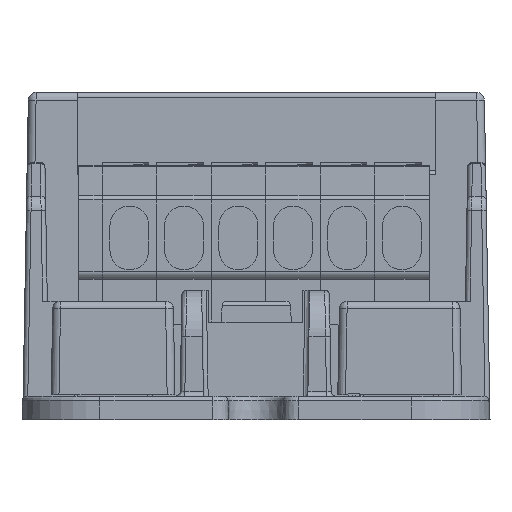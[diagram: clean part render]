
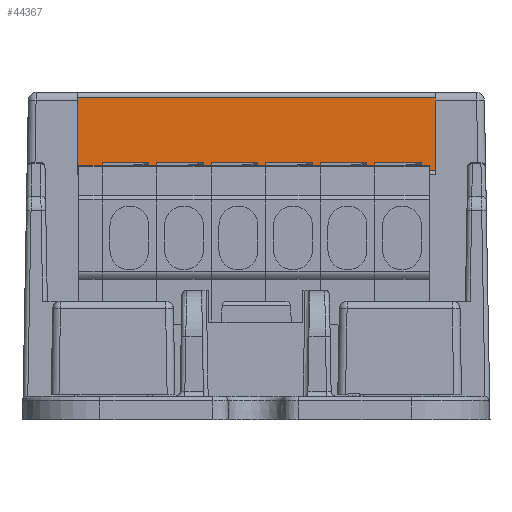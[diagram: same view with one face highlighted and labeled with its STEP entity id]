
A CAD part, left-side view. The second image highlights one B-rep face of the part: STEP entity #44367.
In plain terms, the highlighted planar face has unit normal (-1, 0, 0.018).
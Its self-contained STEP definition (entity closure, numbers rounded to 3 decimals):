
#3013=PLANE($,#47385);
#5148=FACE_OUTER_BOUND($,#7649,.T.);
#7649=EDGE_LOOP($,(#32614,#32615,#32616,#32617));
#11835=LINE($,#66075,#16797);
#11837=LINE($,#66082,#16799);
#11839=LINE($,#66087,#16801);
#11840=LINE($,#66088,#16802);
#16797=VECTOR($,#52193,23.);
#16799=VECTOR($,#52199,23.);
#16801=VECTOR($,#52205,4.706);
#16802=VECTOR($,#52206,4.706);
#22035=VERTEX_POINT($,#66072);
#22036=VERTEX_POINT($,#66074);
#22038=VERTEX_POINT($,#66079);
#22039=VERTEX_POINT($,#66081);
#26285=EDGE_CURVE($,#22036,#22035,#11835,.F.);
#26288=EDGE_CURVE($,#22038,#22039,#11837,.T.);
#26291=EDGE_CURVE($,#22038,#22036,#11839,.T.);
#26292=EDGE_CURVE($,#22039,#22035,#11840,.F.);
#32614=ORIENTED_EDGE($,*,*,#26288,.F.);
#32615=ORIENTED_EDGE($,*,*,#26291,.T.);
#32616=ORIENTED_EDGE($,*,*,#26285,.T.);
#32617=ORIENTED_EDGE($,*,*,#26292,.F.);
#44367=ADVANCED_FACE($,(#5148),#3013,.F.);
#47385=AXIS2_PLACEMENT_3D($,#66086,#52203,#52204);
#52193=DIRECTION($,(0.,1.,0.));
#52199=DIRECTION($,(0.,-1.,0.));
#52203=DIRECTION('center_axis',(1.,0.,-0.017));
#52204=DIRECTION('ref_axis',(0.,-1.,0.));
#52205=DIRECTION($,(-0.017,0.,-1.));
#52206=DIRECTION($,(0.017,0.,1.));
#66072=CARTESIAN_POINT('',(-69.487,-11.5,16.));
#66074=CARTESIAN_POINT('',(-69.487,11.5,16.));
#66075=CARTESIAN_POINT($,(-69.487,5.5,16.));
#66079=CARTESIAN_POINT('',(-69.405,11.5,20.705));
#66081=CARTESIAN_POINT('',(-69.405,-11.5,20.705));
#66082=CARTESIAN_POINT($,(-69.405,5.5,20.705));
#66086=CARTESIAN_POINT('Origin',(-69.4,11.,21.));
#66087=CARTESIAN_POINT($,(-69.401,11.5,20.948));
#66088=CARTESIAN_POINT($,(-69.4,-11.5,21.));
